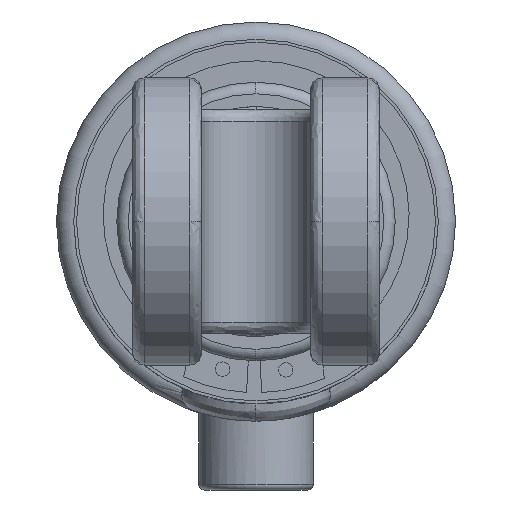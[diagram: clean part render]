
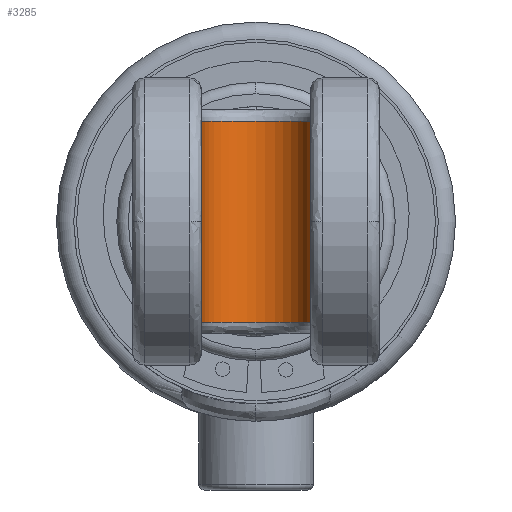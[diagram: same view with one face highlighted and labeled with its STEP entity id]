
A CAD part, left-side view. The second image highlights one B-rep face of the part: STEP entity #3285.
In plain terms, the highlighted cylindrical face has radius 9.5 mm (diameter 19 mm), a partial arc.
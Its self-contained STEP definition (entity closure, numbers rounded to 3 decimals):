
#319 = AXIS2_PLACEMENT_3D ( 'NONE', #7504, #3613, #20979 ) ;
#812 = DIRECTION ( 'NONE',  ( 0., 0., 1. ) ) ;
#1149 = CARTESIAN_POINT ( 'NONE',  ( 0.293, -17.446, 17.5 ) ) ;
#2287 = ORIENTED_EDGE ( 'NONE', *, *, #24733, .F. ) ;
#2922 = VERTEX_POINT ( 'NONE', #12466 ) ;
#3285 = ADVANCED_FACE ( 'NONE', ( #22991 ), #12811, .F. ) ;
#3613 = DIRECTION ( 'NONE',  ( 0., 0., 1. ) ) ;
#4167 = CARTESIAN_POINT ( 'NONE',  ( 0.293, -17.446, -19.5 ) ) ;
#4903 = ORIENTED_EDGE ( 'NONE', *, *, #14923, .F. ) ;
#6960 = CARTESIAN_POINT ( 'NONE',  ( 0.293, 1.554, -17.5 ) ) ;
#7504 = CARTESIAN_POINT ( 'NONE',  ( 0.293, -7.946, -19.5 ) ) ;
#8109 = EDGE_CURVE ( 'NONE', #24630, #2922, #17007, .T. ) ;
#8286 = CARTESIAN_POINT ( 'NONE',  ( 0.293, -7.946, 17.5 ) ) ;
#8374 = LINE ( 'NONE', #4167, #10188 ) ;
#9164 = VERTEX_POINT ( 'NONE', #21708 ) ;
#10167 = VERTEX_POINT ( 'NONE', #1149 ) ;
#10188 = VECTOR ( 'NONE', #17676, 1000. ) ;
#10227 = DIRECTION ( 'NONE',  ( 1., 0., 0. ) ) ;
#10431 = LINE ( 'NONE', #18937, #14980 ) ;
#10590 = ORIENTED_EDGE ( 'NONE', *, *, #17839, .F. ) ;
#11807 = EDGE_LOOP ( 'NONE', ( #10590, #23679, #2287, #4903 ) ) ;
#12396 = CARTESIAN_POINT ( 'NONE',  ( 0.293, -7.946, -17.5 ) ) ;
#12466 = CARTESIAN_POINT ( 'NONE',  ( 0.293, -17.446, -17.5 ) ) ;
#12811 = CYLINDRICAL_SURFACE ( 'NONE', #319, 9.5 ) ;
#13119 = AXIS2_PLACEMENT_3D ( 'NONE', #12396, #812, #14337 ) ;
#13692 = AXIS2_PLACEMENT_3D ( 'NONE', #8286, #21748, #10227 ) ;
#14337 = DIRECTION ( 'NONE',  ( 1., 0., 0. ) ) ;
#14497 = CIRCLE ( 'NONE', #13692, 9.5 ) ;
#14923 = EDGE_CURVE ( 'NONE', #10167, #9164, #14497, .T. ) ;
#14980 = VECTOR ( 'NONE', #20850, 1000. ) ;
#17007 = CIRCLE ( 'NONE', #13119, 9.5 ) ;
#17676 = DIRECTION ( 'NONE',  ( 0., 0., 1. ) ) ;
#17839 = EDGE_CURVE ( 'NONE', #2922, #10167, #8374, .T. ) ;
#18937 = CARTESIAN_POINT ( 'NONE',  ( 0.293, 1.554, -19.5 ) ) ;
#20850 = DIRECTION ( 'NONE',  ( 0., 0., -1. ) ) ;
#20979 = DIRECTION ( 'NONE',  ( 1., 0., 0. ) ) ;
#21708 = CARTESIAN_POINT ( 'NONE',  ( 0.293, 1.554, 17.5 ) ) ;
#21748 = DIRECTION ( 'NONE',  ( 0., 0., -1. ) ) ;
#22991 = FACE_OUTER_BOUND ( 'NONE', #11807, .T. ) ;
#23679 = ORIENTED_EDGE ( 'NONE', *, *, #8109, .F. ) ;
#24630 = VERTEX_POINT ( 'NONE', #6960 ) ;
#24733 = EDGE_CURVE ( 'NONE', #9164, #24630, #10431, .T. ) ;
